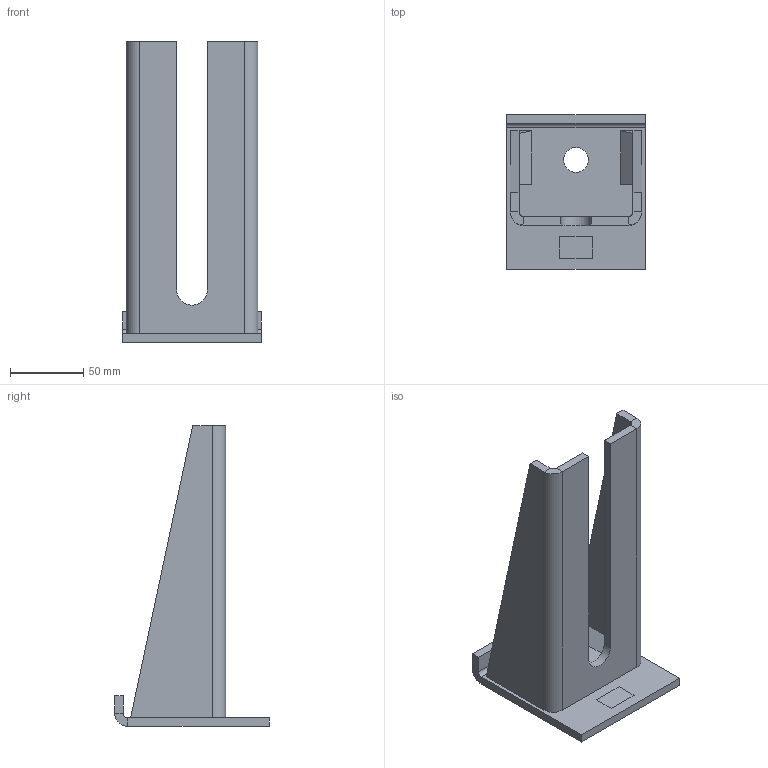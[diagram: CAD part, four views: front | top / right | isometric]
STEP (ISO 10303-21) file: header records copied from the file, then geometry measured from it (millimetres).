
FILE_DESCRIPTION(/* description */ ('Doppelkonsole Nr.3'),/* implementation_level */ '2;1');
FILE_NAME(/* name */ 'Q:\sge-ma\Produktmanagement-STB\STB\Workspace\stp\010335430.stp',/* time_stamp */ '2015-07-09T13:31:47+02:00',/* author */ ('avschreier'),/* organization */ (''),/* preprocessor_version */ 'ST-DEVELOPER v15.6',/* originating_system */ 'Autodesk Inventor 2015',/* authorisation */ '');
FILE_SCHEMA (('CONFIG_CONTROL_DESIGN'));
Length unit declared in the file: millimetre
Products named in the file (4): 010335430_Schweißnähte; 337000233; 337000234; 010335430
Bounding box: 95 x 106 x 206 mm (x, y, z)
Volume: 238693.3 mm3; surface area: 90309.6 mm2
Topology: 4 solids, 4 shells, 56 faces, 117 edges, 70 vertices
Faces by surface type: plane 48, cylinder 8
Full cylindrical faces by diameter (mm): 17 x1
Entity records: 1546 total; most frequent: DIRECTION 258, CARTESIAN_POINT 249, ORIENTED_EDGE 232, EDGE_CURVE 116, LINE 100, VECTOR 100, AXIS2_PLACEMENT_3D 79, VERTEX_POINT 70
